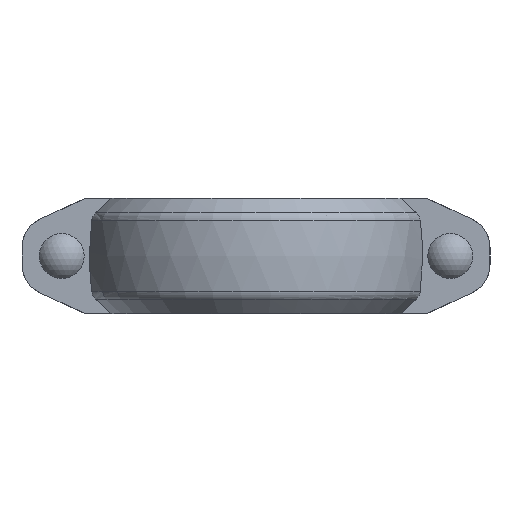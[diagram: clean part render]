
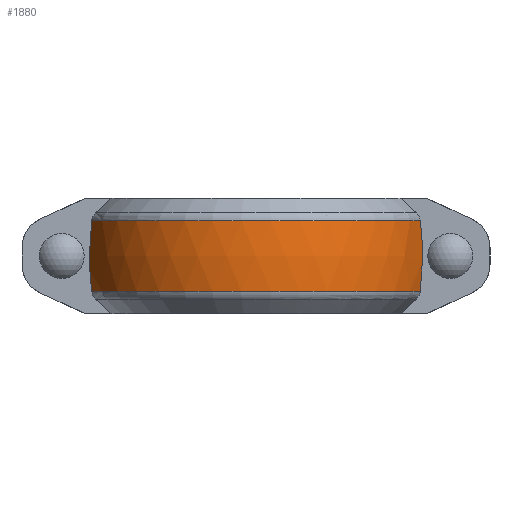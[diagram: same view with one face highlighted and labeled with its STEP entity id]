
A CAD part, front view. The second image highlights one B-rep face of the part: STEP entity #1880.
In plain terms, the highlighted free-form (B-spline) face has degree [2, 2] with [3, 5] control points.
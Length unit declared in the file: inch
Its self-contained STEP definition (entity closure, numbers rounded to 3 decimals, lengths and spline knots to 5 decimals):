
#27=(
BOUNDED_SURFACE()
B_SPLINE_SURFACE(2,2,((#3341,#3342,#3343,#3344,#3345),(#3346,#3347,#3348,
#3349,#3350),(#3351,#3352,#3353,#3354,#3355)),.UNSPECIFIED.,.F.,.F.,.F.)
B_SPLINE_SURFACE_WITH_KNOTS((3,3),(3,2,3),(-0.11552,0.11552),
(0.27609,1.5708,2.86551),.UNSPECIFIED.)
GEOMETRIC_REPRESENTATION_ITEM()
RATIONAL_B_SPLINE_SURFACE(((1.,0.798,1.,0.798,1.),
(0.993,0.792,0.993,0.792,0.993),
(1.,0.798,1.,0.798,1.)))
REPRESENTATION_ITEM('')
SURFACE()
);
#69=B_SPLINE_CURVE_WITH_KNOTS('',3,(#3109,#3110,#3111,#3112,#3113,#3114,
#3115,#3116,#3117,#3118),.UNSPECIFIED.,.F.,.F.,(4,2,2,2,4),(13.36373,
14.09747,15.02461,15.95176,16.6855),
 .UNSPECIFIED.);
#75=B_SPLINE_CURVE_WITH_KNOTS('',3,(#3219,#3220,#3221,#3222,#3223,#3224,
#3225,#3226,#3227,#3228),.UNSPECIFIED.,.F.,.F.,(4,2,2,2,4),(43.41296,
44.1467,45.07384,46.00099,46.73473),
 .UNSPECIFIED.);
#236=FACE_OUTER_BOUND('',#341,.T.);
#341=EDGE_LOOP('',(#1665,#1666,#1667,#1668));
#696=CIRCLE('',#2096,3.33501);
#701=CIRCLE('',#2107,3.33501);
#855=VERTEX_POINT('',#3095);
#856=VERTEX_POINT('',#3108);
#870=VERTEX_POINT('',#3205);
#871=VERTEX_POINT('',#3218);
#1097=EDGE_CURVE('',#856,#855,#69,.T.);
#1118=EDGE_CURVE('',#871,#870,#75,.T.);
#1137=EDGE_CURVE('',#871,#855,#696,.T.);
#1142=EDGE_CURVE('',#870,#856,#701,.T.);
#1665=ORIENTED_EDGE('',*,*,#1097,.T.);
#1666=ORIENTED_EDGE('',*,*,#1137,.F.);
#1667=ORIENTED_EDGE('',*,*,#1118,.T.);
#1668=ORIENTED_EDGE('',*,*,#1142,.T.);
#1880=ADVANCED_FACE('',(#236),#27,.F.);
#2096=AXIS2_PLACEMENT_3D('',#3329,#2588,#2589);
#2107=AXIS2_PLACEMENT_3D('',#3340,#2610,#2611);
#2588=DIRECTION('center_axis',(0.,0.,-1.));
#2589=DIRECTION('ref_axis',(1.,0.,0.));
#2610=DIRECTION('center_axis',(0.,0.,-1.));
#2611=DIRECTION('ref_axis',(1.,0.,0.));
#3095=CARTESIAN_POINT('',(3.2056,0.92,-0.69159));
#3108=CARTESIAN_POINT('',(3.2056,0.92,0.69159));
#3109=CARTESIAN_POINT('Ctrl Pts',(3.2056,0.92,0.69159));
#3110=CARTESIAN_POINT('Ctrl Pts',(3.21823,0.92,0.58696));
#3111=CARTESIAN_POINT('Ctrl Pts',(3.22792,0.92,0.48235));
#3112=CARTESIAN_POINT('Ctrl Pts',(3.24328,0.92,0.24922));
#3113=CARTESIAN_POINT('Ctrl Pts',(3.24719,0.92,0.12167));
#3114=CARTESIAN_POINT('Ctrl Pts',(3.24719,0.92,-0.12167));
#3115=CARTESIAN_POINT('Ctrl Pts',(3.24328,0.92,-0.24922));
#3116=CARTESIAN_POINT('Ctrl Pts',(3.22792,0.92,-0.48235));
#3117=CARTESIAN_POINT('Ctrl Pts',(3.21823,0.92,-0.58696));
#3118=CARTESIAN_POINT('Ctrl Pts',(3.2056,0.92,-0.69159));
#3205=CARTESIAN_POINT('',(-3.2056,0.92,0.69159));
#3218=CARTESIAN_POINT('',(-3.2056,0.92,-0.69159));
#3219=CARTESIAN_POINT('Ctrl Pts',(-3.2056,0.92,-0.69159));
#3220=CARTESIAN_POINT('Ctrl Pts',(-3.21823,0.92,-0.58696));
#3221=CARTESIAN_POINT('Ctrl Pts',(-3.22792,0.92,-0.48235));
#3222=CARTESIAN_POINT('Ctrl Pts',(-3.24328,0.92,-0.24922));
#3223=CARTESIAN_POINT('Ctrl Pts',(-3.24719,0.92,-0.12167));
#3224=CARTESIAN_POINT('Ctrl Pts',(-3.24719,0.92,0.12167));
#3225=CARTESIAN_POINT('Ctrl Pts',(-3.24328,0.92,0.24922));
#3226=CARTESIAN_POINT('Ctrl Pts',(-3.22792,0.92,0.48235));
#3227=CARTESIAN_POINT('Ctrl Pts',(-3.21823,0.92,0.58696));
#3228=CARTESIAN_POINT('Ctrl Pts',(-3.2056,0.92,0.69159));
#3329=CARTESIAN_POINT('Origin',(0.,0.,-0.69159));
#3340=CARTESIAN_POINT('Origin',(0.,0.,0.69159));
#3341=CARTESIAN_POINT('Ctrl Pts',(-3.20871,0.9091,0.69159));
#3342=CARTESIAN_POINT('Ctrl Pts',(-2.5214,3.33501,0.69159));
#3343=CARTESIAN_POINT('Ctrl Pts',(0.,3.33501,0.69159));
#3344=CARTESIAN_POINT('Ctrl Pts',(2.5214,3.33501,0.69159));
#3345=CARTESIAN_POINT('Ctrl Pts',(3.20871,0.9091,0.69159));
#3346=CARTESIAN_POINT('Ctrl Pts',(-3.28592,0.93097,0.));
#3347=CARTESIAN_POINT('Ctrl Pts',(-2.58207,3.41526,0.));
#3348=CARTESIAN_POINT('Ctrl Pts',(0.,3.41526,0.));
#3349=CARTESIAN_POINT('Ctrl Pts',(2.58207,3.41526,0.));
#3350=CARTESIAN_POINT('Ctrl Pts',(3.28592,0.93097,0.));
#3351=CARTESIAN_POINT('Ctrl Pts',(-3.20871,0.9091,-0.69159));
#3352=CARTESIAN_POINT('Ctrl Pts',(-2.5214,3.33501,-0.69159));
#3353=CARTESIAN_POINT('Ctrl Pts',(0.,3.33501,-0.69159));
#3354=CARTESIAN_POINT('Ctrl Pts',(2.5214,3.33501,-0.69159));
#3355=CARTESIAN_POINT('Ctrl Pts',(3.20871,0.9091,-0.69159));
